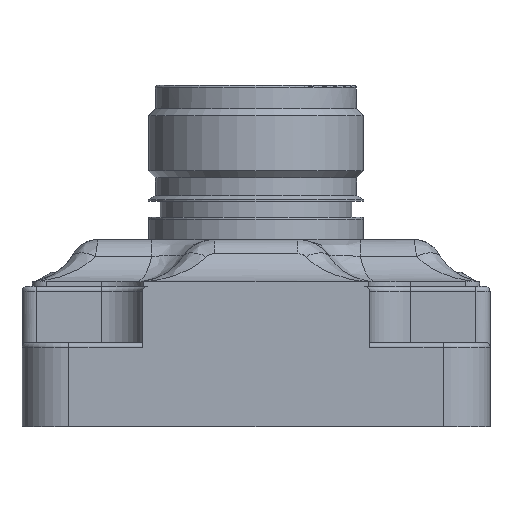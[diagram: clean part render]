
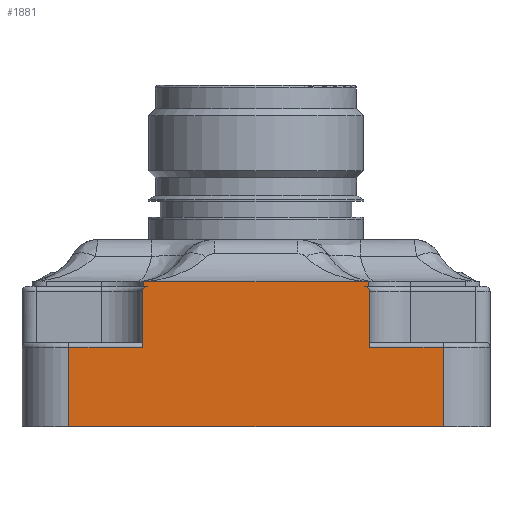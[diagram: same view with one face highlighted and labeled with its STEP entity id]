
A CAD part, left-side view. The second image highlights one B-rep face of the part: STEP entity #1881.
In plain terms, the highlighted planar face has unit normal (-1, 0, 0).
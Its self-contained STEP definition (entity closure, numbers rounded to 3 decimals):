
#173=LINE('',#10290,#664);
#200=LINE('',#11030,#691);
#225=LINE('',#11195,#716);
#250=LINE('',#11268,#741);
#252=LINE('',#11274,#743);
#253=LINE('',#11276,#744);
#254=LINE('',#11280,#745);
#255=LINE('',#11282,#746);
#256=LINE('',#11284,#747);
#257=LINE('',#11285,#748);
#258=LINE('',#11286,#749);
#259=LINE('',#11290,#750);
#664=VECTOR('',#7636,1.);
#691=VECTOR('',#7717,1.);
#716=VECTOR('',#7802,1.);
#741=VECTOR('',#7853,1.);
#743=VECTOR('',#7859,1.);
#744=VECTOR('',#7860,1.);
#745=VECTOR('',#7863,1.);
#746=VECTOR('',#7864,1.);
#747=VECTOR('',#7865,1.);
#748=VECTOR('',#7866,1.);
#749=VECTOR('',#7867,1.);
#750=VECTOR('',#7870,1.);
#1288=PLANE('',#6916);
#1525=FACE_OUTER_BOUND('',#2750,.T.);
#1881=ADVANCED_FACE('',(#1525),#1288,.T.);
#2750=EDGE_LOOP('',(#3574,#3575,#3576,#3577,#3578,#3579,#3580,#3581,#3582,
#3583,#3584,#3585,#3586,#3587));
#3574=ORIENTED_EDGE('',*,*,#5798,.F.);
#3575=ORIENTED_EDGE('',*,*,#5714,.F.);
#3576=ORIENTED_EDGE('',*,*,#5635,.F.);
#3577=ORIENTED_EDGE('',*,*,#5799,.F.);
#3578=ORIENTED_EDGE('',*,*,#5800,.F.);
#3579=ORIENTED_EDGE('',*,*,#5801,.T.);
#3580=ORIENTED_EDGE('',*,*,#5802,.F.);
#3581=ORIENTED_EDGE('',*,*,#5803,.T.);
#3582=ORIENTED_EDGE('',*,*,#5761,.T.);
#3583=ORIENTED_EDGE('',*,*,#5804,.T.);
#3584=ORIENTED_EDGE('',*,*,#5795,.F.);
#3585=ORIENTED_EDGE('',*,*,#5805,.F.);
#3586=ORIENTED_EDGE('',*,*,#5806,.F.);
#3587=ORIENTED_EDGE('',*,*,#5807,.F.);
#4992=VERTEX_POINT('',#10289);
#4993=VERTEX_POINT('',#10291);
#5044=VERTEX_POINT('',#11031);
#5080=VERTEX_POINT('',#11194);
#5081=VERTEX_POINT('',#11196);
#5109=VERTEX_POINT('',#11267);
#5110=VERTEX_POINT('',#11269);
#5112=VERTEX_POINT('',#11275);
#5113=VERTEX_POINT('',#11277);
#5114=VERTEX_POINT('',#11279);
#5115=VERTEX_POINT('',#11281);
#5116=VERTEX_POINT('',#11283);
#5117=VERTEX_POINT('',#11287);
#5118=VERTEX_POINT('',#11289);
#5635=EDGE_CURVE('',#4992,#4993,#173,.T.);
#5714=EDGE_CURVE('',#4993,#5044,#200,.T.);
#5761=EDGE_CURVE('',#5081,#5080,#225,.T.);
#5795=EDGE_CURVE('',#5109,#5110,#250,.T.);
#5798=EDGE_CURVE('',#5044,#5112,#252,.T.);
#5799=EDGE_CURVE('',#5113,#4992,#253,.T.);
#5800=EDGE_CURVE('',#5114,#5113,#6536,.T.);
#5801=EDGE_CURVE('',#5114,#5115,#254,.T.);
#5802=EDGE_CURVE('',#5116,#5115,#255,.T.);
#5803=EDGE_CURVE('',#5116,#5081,#256,.T.);
#5804=EDGE_CURVE('',#5080,#5110,#257,.T.);
#5805=EDGE_CURVE('',#5117,#5109,#258,.T.);
#5806=EDGE_CURVE('',#5118,#5117,#6537,.T.);
#5807=EDGE_CURVE('',#5112,#5118,#259,.T.);
#6536=CIRCLE('',#6914,0.5);
#6537=CIRCLE('',#6915,0.5);
#6914=AXIS2_PLACEMENT_3D('',#11278,#7861,#7862);
#6915=AXIS2_PLACEMENT_3D('',#11288,#7868,#7869);
#6916=AXIS2_PLACEMENT_3D('',#11291,#7871,#7872);
#7636=DIRECTION('',(0.,0.,1.));
#7717=DIRECTION('',(0.,-1.,0.));
#7802=DIRECTION('',(0.,-1.,0.));
#7853=DIRECTION('',(0.,-1.,0.));
#7859=DIRECTION('',(0.,0.,-1.));
#7860=DIRECTION('',(0.,1.,0.));
#7861=DIRECTION('',(1.,0.,0.));
#7862=DIRECTION('',(0.,0.,1.));
#7863=DIRECTION('',(0.,0.,-1.));
#7864=DIRECTION('',(0.,-1.,0.));
#7865=DIRECTION('',(0.,0.,-1.));
#7866=DIRECTION('',(0.,0.,1.));
#7867=DIRECTION('',(0.,0.,-1.));
#7868=DIRECTION('',(1.,0.,0.));
#7869=DIRECTION('',(0.,-1.,0.));
#7870=DIRECTION('',(0.,1.,0.));
#7871=DIRECTION('',(-1.,0.,0.));
#7872=DIRECTION('',(0.,0.,-1.));
#10289=CARTESIAN_POINT('',(-2.25,12.,9.));
#10290=CARTESIAN_POINT('',(-2.25,12.,9.));
#10291=CARTESIAN_POINT('',(-2.25,12.,9.5));
#11030=CARTESIAN_POINT('',(-2.25,12.,9.5));
#11031=CARTESIAN_POINT('',(-2.25,-12.,9.5));
#11194=CARTESIAN_POINT('',(-2.25,-20.,-6.));
#11195=CARTESIAN_POINT('',(-2.25,20.,-6.));
#11196=CARTESIAN_POINT('',(-2.25,20.,-6.));
#11267=CARTESIAN_POINT('',(-2.25,-12.12,2.5));
#11268=CARTESIAN_POINT('',(-2.25,-12.12,2.5));
#11269=CARTESIAN_POINT('',(-2.25,-20.,2.5));
#11274=CARTESIAN_POINT('',(-2.25,-12.,9.5));
#11275=CARTESIAN_POINT('',(-2.25,-12.,9.));
#11276=CARTESIAN_POINT('',(-2.25,11.62,9.));
#11277=CARTESIAN_POINT('',(-2.25,11.62,9.));
#11278=CARTESIAN_POINT('',(-2.25,11.62,8.5));
#11279=CARTESIAN_POINT('',(-2.25,12.12,8.5));
#11280=CARTESIAN_POINT('',(-2.25,12.12,8.5));
#11281=CARTESIAN_POINT('',(-2.25,12.12,2.5));
#11282=CARTESIAN_POINT('',(-2.25,20.,2.5));
#11283=CARTESIAN_POINT('',(-2.25,20.,2.5));
#11284=CARTESIAN_POINT('',(-2.25,20.,2.5));
#11285=CARTESIAN_POINT('',(-2.25,-20.,-6.));
#11286=CARTESIAN_POINT('',(-2.25,-12.12,8.5));
#11287=CARTESIAN_POINT('',(-2.25,-12.12,8.5));
#11288=CARTESIAN_POINT('',(-2.25,-11.62,8.5));
#11289=CARTESIAN_POINT('',(-2.25,-11.62,9.));
#11290=CARTESIAN_POINT('',(-2.25,-12.,9.));
#11291=CARTESIAN_POINT('',(-2.25,0.,6.25));
